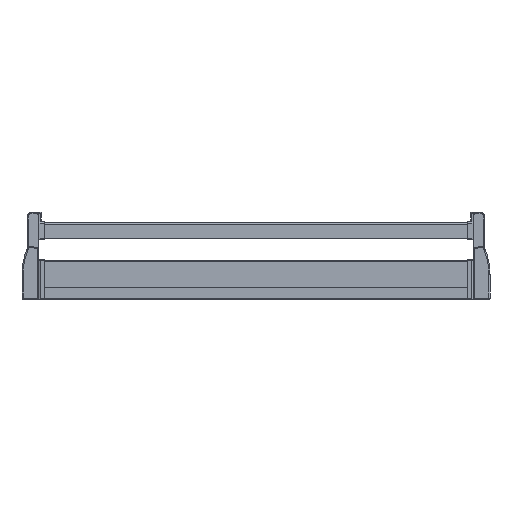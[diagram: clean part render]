
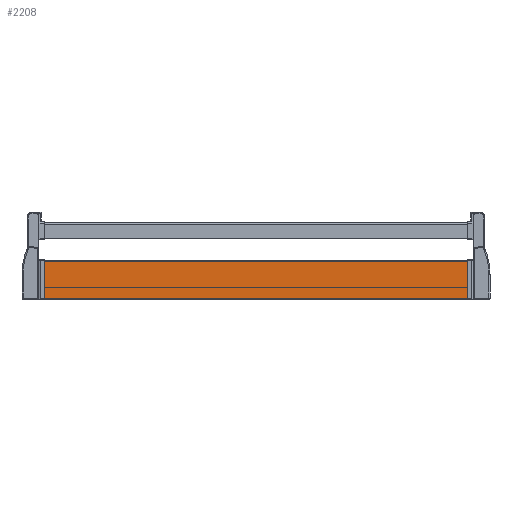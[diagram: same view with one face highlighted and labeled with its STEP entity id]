
A CAD part, top view. The second image highlights one B-rep face of the part: STEP entity #2208.
In plain terms, the highlighted planar face has unit normal (0, 0, 1).
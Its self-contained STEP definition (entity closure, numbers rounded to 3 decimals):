
#1818 = VERTEX_POINT ( 'NONE', #5334 ) ;
#1873 = EDGE_CURVE ( 'NONE', #1874, #1818, #5589, .T. ) ;
#1874 = VERTEX_POINT ( 'NONE', #5581 ) ;
#2106 = EDGE_LOOP ( 'NONE', ( #2107, #2108, #2109, #2113 ) ) ;
#2107 = ORIENTED_EDGE ( 'NONE', *, *, #2204, .F. ) ;
#2108 = ORIENTED_EDGE ( 'NONE', *, *, #1873, .T. ) ;
#2109 = ORIENTED_EDGE ( 'NONE', *, *, #2110, .T. ) ;
#2110 = EDGE_CURVE ( 'NONE', #1818, #2112, #5731, .T. ) ;
#2112 = VERTEX_POINT ( 'NONE', #5727 ) ;
#2113 = ORIENTED_EDGE ( 'NONE', *, *, #2114, .F. ) ;
#2114 = EDGE_CURVE ( 'NONE', #2205, #2112, #5725, .T. ) ;
#2204 = EDGE_CURVE ( 'NONE', #1874, #2205, #6185, .T. ) ;
#2205 = VERTEX_POINT ( 'NONE', #6176 ) ;
#2208 = ADVANCED_FACE ( 'NONE', ( #6164 ), #6163, .F. ) ;
#5334 = CARTESIAN_POINT ( 'NONE',  ( 385.8, -23., 1.4 ) ) ;
#5581 = CARTESIAN_POINT ( 'NONE',  ( 385.8, -92.5, 1.4 ) ) ;
#5584 = DIRECTION ( 'NONE',  ( 0., 1., 0. ) ) ;
#5585 = VECTOR ( 'NONE', #5584, 1000. ) ;
#5587 = CARTESIAN_POINT ( 'NONE',  ( 385.8, -92.5, 1.4 ) ) ;
#5589 = LINE ( 'NONE', #5587, #5585 ) ;
#5720 = DIRECTION ( 'NONE',  ( 0., 1., 0. ) ) ;
#5722 = VECTOR ( 'NONE', #5720, 1000. ) ;
#5723 = CARTESIAN_POINT ( 'NONE',  ( -385.8, -92.5, 1.4 ) ) ;
#5725 = LINE ( 'NONE', #5723, #5722 ) ;
#5727 = CARTESIAN_POINT ( 'NONE',  ( -385.8, -23., 1.4 ) ) ;
#5728 = DIRECTION ( 'NONE',  ( -1., 0., 0. ) ) ;
#5729 = VECTOR ( 'NONE', #5728, 1000. ) ;
#5730 = CARTESIAN_POINT ( 'NONE',  ( 459.556, -23., 1.4 ) ) ;
#5731 = LINE ( 'NONE', #5730, #5729 ) ;
#6155 = DIRECTION ( 'NONE',  ( 0., 1., 0. ) ) ;
#6157 = DIRECTION ( 'NONE',  ( 0., 0., -1. ) ) ;
#6159 = CARTESIAN_POINT ( 'NONE',  ( 459.556, -92.5, 1.4 ) ) ;
#6161 = AXIS2_PLACEMENT_3D ( 'NONE', #6159, #6157, #6155 ) ;
#6163 = PLANE ( 'NONE',  #6161 ) ;
#6164 = FACE_OUTER_BOUND ( 'NONE', #2106, .T. ) ;
#6176 = CARTESIAN_POINT ( 'NONE',  ( -385.8, -92.5, 1.4 ) ) ;
#6179 = DIRECTION ( 'NONE',  ( -1., 0., 0. ) ) ;
#6181 = VECTOR ( 'NONE', #6179, 1000. ) ;
#6183 = CARTESIAN_POINT ( 'NONE',  ( 459.556, -92.5, 1.4 ) ) ;
#6185 = LINE ( 'NONE', #6183, #6181 ) ;
